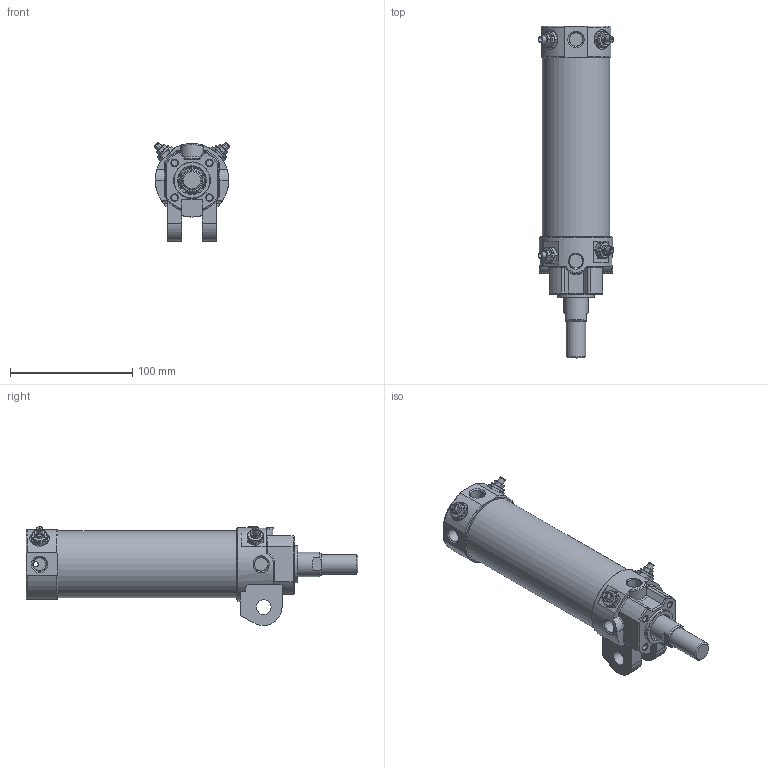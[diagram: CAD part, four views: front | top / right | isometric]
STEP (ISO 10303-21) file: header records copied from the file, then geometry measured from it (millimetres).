
FILE_DESCRIPTION((''),'2;1');
FILE_NAME('I:\3D電子目錄\氣缸\DCK\DCK\DCK-1A-50x100.stp','2008-02-26T14:12:30',('Administrator'),(''),'Autodesk Inventor 11','Autodesk Inventor 11','');
FILE_SCHEMA(('AUTOMOTIVE_DESIGN { 1 0 10303 214 1 1 1 1 }'));
Length unit declared in the file: millimetre
Products named in the file (6): DCK-1A-50; 緩衝針; 緩衝針-1; 緩衝針-201; 緩衝針-3
Assembly tree (8 placements, depth 3):
  DCK-1A-50
    DCK-1A-50
    緩衝針  x4
      緩衝針-1
      緩衝針-201
      緩衝針-3
Bounding box: 61.76 x 271 x 80.87 mm (x, y, z)
Volume: 245074 mm3; surface area: 110351.8 mm2
Topology: 15 solids, 15 shells, 570 faces, 1270 edges, 794 vertices
Faces by surface type: plane 213, cylinder 168, cone 133, torus 30, bspline 26
Full cylindrical faces by diameter (mm): 2 x2, 3 x4, 3.8 x2, 4 x6, 4.6 x4, 5 x8, 5.1 x4, 5.2 x12, 5.5 x4, 7.25 x1, 7.9 x4, 8 x2, 10.3 x1, 11.3 x1, 12 x4, 12.8 x4, 16 x2, 20 x1, 21 x1, 22 x2, 23 x1, 24.7 x1, 26 x1, 27 x1, 28 x1, 29 x1, 30 x1, 33 x1, 49.5 x1, 52 x2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
Entity records: 11478 total; most frequent: CARTESIAN_POINT 4706, DIRECTION 1374, ORIENTED_EDGE 1222, EDGE_CURVE 611, AXIS2_PLACEMENT_3D 598, EDGE_LOOP 497, VERTEX_POINT 444, FACE_OUTER_BOUND 321
